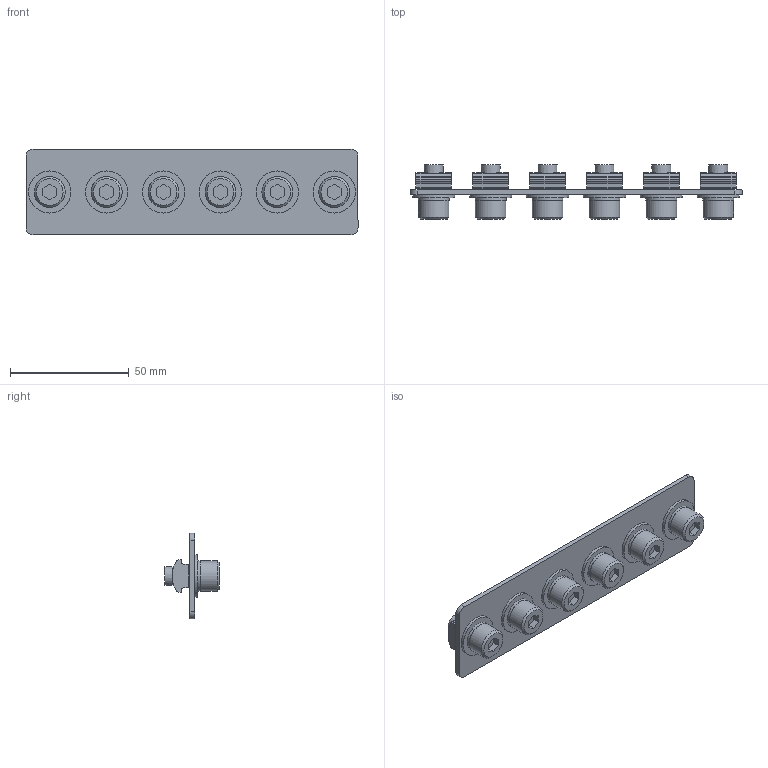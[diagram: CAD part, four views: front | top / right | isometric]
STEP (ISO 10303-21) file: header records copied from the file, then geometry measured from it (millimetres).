
FILE_DESCRIPTION(('STEP AP214'),'1');
FILE_NAME('SP40-B.stp','2017-07-27T09:29:25',(' '),(' '),'Spatial InterOp 3D',' ',' ');
FILE_SCHEMA(('automotive_design'));
Length unit declared in the file: millimetre
Products named in the file (6): SP40-B; SP40-H
Assembly tree (25 placements, depth 2):
  SP40-B
    SP40-H
    (unnamed)  x6
    (unnamed)  x6
    (unnamed)  x6
    (unnamed)  x6
Bounding box: 140 x 22.91 x 36 mm (x, y, z)
Volume: 26101.4 mm3; surface area: 25225.4 mm2
Topology: 25 solids, 25 shells, 298 faces, 720 edges, 478 vertices
Faces by surface type: plane 180, cylinder 106, cone 12
Full cylindrical faces by diameter (mm): 8 x6, 8.1 x6, 8.5 x6, 12.85 x6, 17.8 x6
Entity records: 2417 total; most frequent: DIRECTION 378, CARTESIAN_POINT 367, ORIENTED_EDGE 284, AXIS2_PLACEMENT_3D 149, EDGE_CURVE 142, VERTEX_POINT 102, EDGE_LOOP 92, LINE 80
